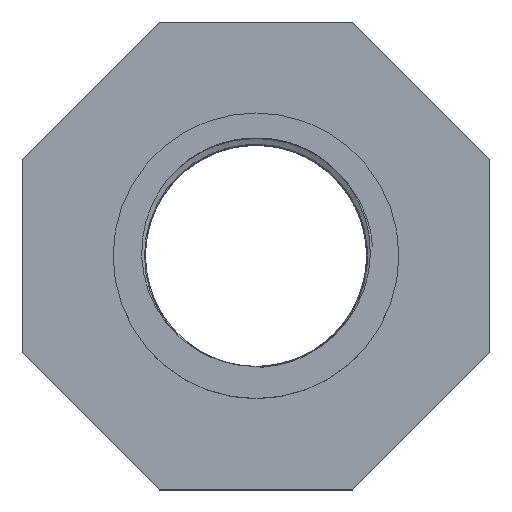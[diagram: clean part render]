
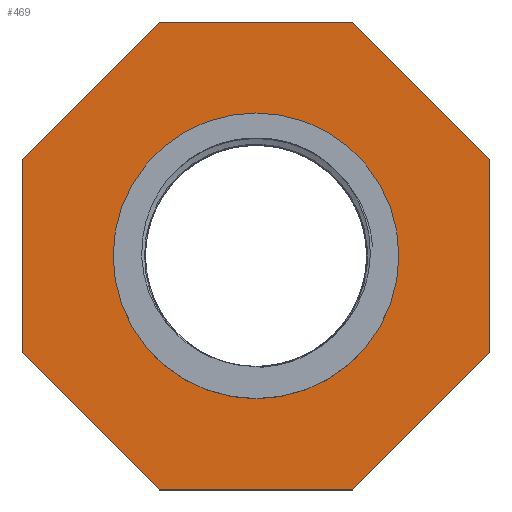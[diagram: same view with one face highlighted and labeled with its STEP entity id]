
A CAD part, top view. The second image highlights one B-rep face of the part: STEP entity #469.
In plain terms, the highlighted planar face has unit normal (0, 0, 1).
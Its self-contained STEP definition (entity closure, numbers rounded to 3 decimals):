
#16=FACE_BOUND('',#107,.T.);
#38=PLANE('',#497);
#49=CIRCLE('',#498,29.);
#76=FACE_OUTER_BOUND('',#106,.T.);
#106=EDGE_LOOP('',(#411,#412,#413,#414,#415,#416,#417,#418));
#107=EDGE_LOOP('',(#419));
#126=LINE('',#9942,#156);
#130=LINE('',#9950,#160);
#133=LINE('',#9956,#163);
#136=LINE('',#9962,#166);
#139=LINE('',#9968,#169);
#142=LINE('',#9974,#172);
#145=LINE('',#9980,#175);
#148=LINE('',#9985,#178);
#156=VECTOR('',#539,39.35);
#160=VECTOR('',#545,39.35);
#163=VECTOR('',#550,39.35);
#166=VECTOR('',#555,39.35);
#169=VECTOR('',#560,39.35);
#172=VECTOR('',#565,39.35);
#175=VECTOR('',#570,39.35);
#178=VECTOR('',#575,39.35);
#224=VERTEX_POINT('',#9940);
#225=VERTEX_POINT('',#9941);
#228=VERTEX_POINT('',#9949);
#230=VERTEX_POINT('',#9955);
#232=VERTEX_POINT('',#9961);
#234=VERTEX_POINT('',#9967);
#236=VERTEX_POINT('',#9973);
#238=VERTEX_POINT('',#9979);
#240=VERTEX_POINT('',#9989);
#280=EDGE_CURVE('',#224,#225,#126,.T.);
#284=EDGE_CURVE('',#228,#224,#130,.T.);
#287=EDGE_CURVE('',#230,#228,#133,.T.);
#290=EDGE_CURVE('',#232,#230,#136,.T.);
#293=EDGE_CURVE('',#234,#232,#139,.T.);
#296=EDGE_CURVE('',#236,#234,#142,.T.);
#299=EDGE_CURVE('',#238,#236,#145,.T.);
#302=EDGE_CURVE('',#225,#238,#148,.T.);
#304=EDGE_CURVE('',#240,#240,#49,.T.);
#411=ORIENTED_EDGE('',*,*,#302,.F.);
#412=ORIENTED_EDGE('',*,*,#280,.F.);
#413=ORIENTED_EDGE('',*,*,#284,.F.);
#414=ORIENTED_EDGE('',*,*,#287,.F.);
#415=ORIENTED_EDGE('',*,*,#290,.F.);
#416=ORIENTED_EDGE('',*,*,#293,.F.);
#417=ORIENTED_EDGE('',*,*,#296,.F.);
#418=ORIENTED_EDGE('',*,*,#299,.F.);
#419=ORIENTED_EDGE('',*,*,#304,.F.);
#469=ADVANCED_FACE('',(#76,#16),#38,.T.);
#497=AXIS2_PLACEMENT_3D('',#9988,#579,#580);
#498=AXIS2_PLACEMENT_3D('',#9990,#581,#582);
#539=DIRECTION('',(1.,0.,0.));
#545=DIRECTION('',(0.707,0.707,0.));
#550=DIRECTION('',(0.,1.,0.));
#555=DIRECTION('',(-0.707,0.707,0.));
#560=DIRECTION('',(-1.,0.,0.));
#565=DIRECTION('',(-0.707,-0.707,0.));
#570=DIRECTION('',(0.,-1.,0.));
#575=DIRECTION('',(0.707,-0.707,0.));
#579=DIRECTION('center_axis',(0.,0.,1.));
#580=DIRECTION('ref_axis',(1.,0.,0.));
#581=DIRECTION('center_axis',(0.,0.,1.));
#582=DIRECTION('ref_axis',(1.,0.,0.));
#9940=CARTESIAN_POINT('',(-19.675,47.5,51.));
#9941=CARTESIAN_POINT('',(19.675,47.5,51.));
#9942=CARTESIAN_POINT('',(-19.675,47.5,51.));
#9949=CARTESIAN_POINT('',(-47.5,19.675,51.));
#9950=CARTESIAN_POINT('',(-47.5,19.675,51.));
#9955=CARTESIAN_POINT('',(-47.5,-19.675,51.));
#9956=CARTESIAN_POINT('',(-47.5,-19.675,51.));
#9961=CARTESIAN_POINT('',(-19.675,-47.5,51.));
#9962=CARTESIAN_POINT('',(-19.675,-47.5,51.));
#9967=CARTESIAN_POINT('',(19.675,-47.5,51.));
#9968=CARTESIAN_POINT('',(19.675,-47.5,51.));
#9973=CARTESIAN_POINT('',(47.5,-19.675,51.));
#9974=CARTESIAN_POINT('',(47.5,-19.675,51.));
#9979=CARTESIAN_POINT('',(47.5,19.675,51.));
#9980=CARTESIAN_POINT('',(47.5,19.675,51.));
#9985=CARTESIAN_POINT('',(19.675,47.5,51.));
#9988=CARTESIAN_POINT('Origin',(29.,0.,51.));
#9989=CARTESIAN_POINT('',(29.,0.,51.));
#9990=CARTESIAN_POINT('Origin',(0.,0.,51.));
